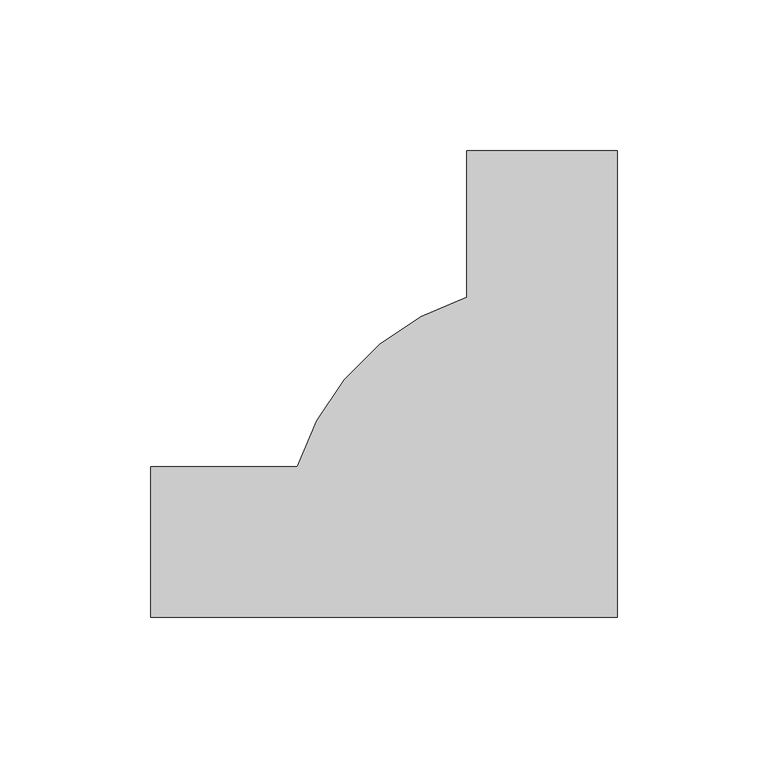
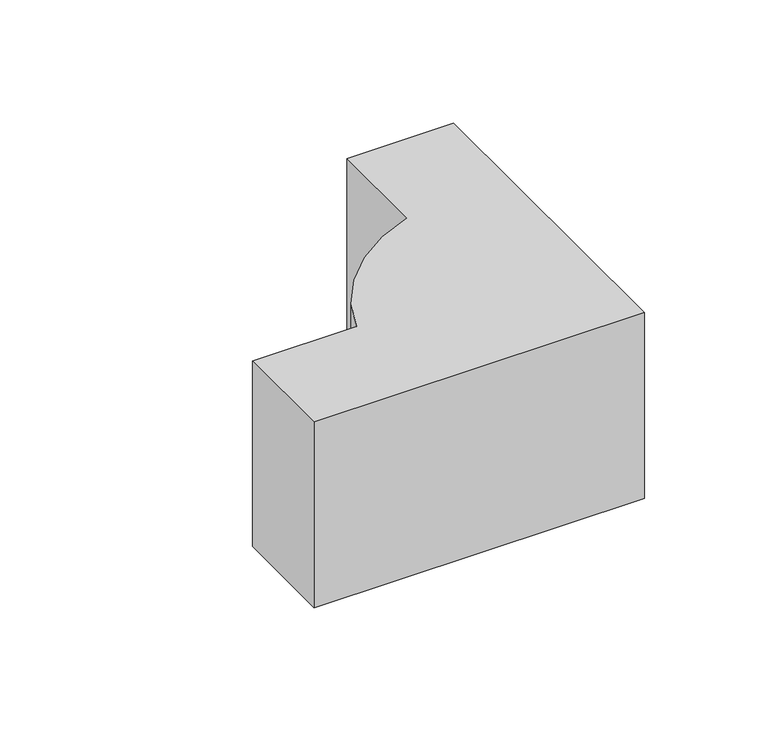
"""IFC4 building model written with IfcOpenShell, lengths in millimetres: duct fitting geometry, КНС_УголВнутренний_DKC : Угол внутренний."""

from ifc_helpers import new_model, si_unit, point, frame, origin, origin_2d, place, context, project, spatial, polyline, circle_curve, trimmed, segment, composite_curve, outline, extrude, source, transform, mapped, element, save


def duct_fitting_7f0a3ea3(model_context):
    return source(origin(), model_context, "Body", "SweptSolid", [
        extrude(outline(composite_curve([segment(polyline([(-130.0, -25.0), (-130.0, 25.0), (-81.240384, 25.0)]), True, "CONTINUOUS"), segment(trimmed(circle_curve(origin_2d(), 85.0), [point((-81.240384, 25.0))], [point((-25.0, 81.240384))], False, "CARTESIAN"), True, "CONTINUOUS"), segment(polyline([(-25.0, 81.240384), (-25.0, 130.0), (25.0, 130.0), (25.0, -25.0), (-130.0, -25.0)]), True, "CONTINUOUS")], self_intersect=False)), frame((0.0, 0.0, -46.0), z_axis=(0.0, 0.0, 1.0), x_axis=(1.0, 0.0, 0.0)), (0.0, 0.0, 1.0), 92.0),
    ])


if __name__ == "__main__":
    model = new_model("IFC4")
    model_context = context("Model", 3, world=origin())
    ifc_project = project(units=[si_unit("LENGTHUNIT", "METRE", prefix="MILLI")], contexts=[model_context])
    site = spatial("IfcSite", under=ifc_project)
    building = spatial("IfcBuilding", under=site)
    placement = place(None, origin())
    duct_fitting_shape = duct_fitting_7f0a3ea3(model_context)
    element("IfcDuctFitting", 1, ObjectType="КНС_УголВнутренний_DKC : Угол внутренний", at=placement, inside=building, context=model_context, shape_type="MappedRepresentation", body=[
        mapped(duct_fitting_shape, transform((0.0, 0.0, 0.0), x_axis=(1.0, 0.0, 0.0), y_axis=(0.0, 1.0, 0.0), z_axis=(0.0, 0.0, 1.0))),
    ])
    save(model, "model.ifc")
